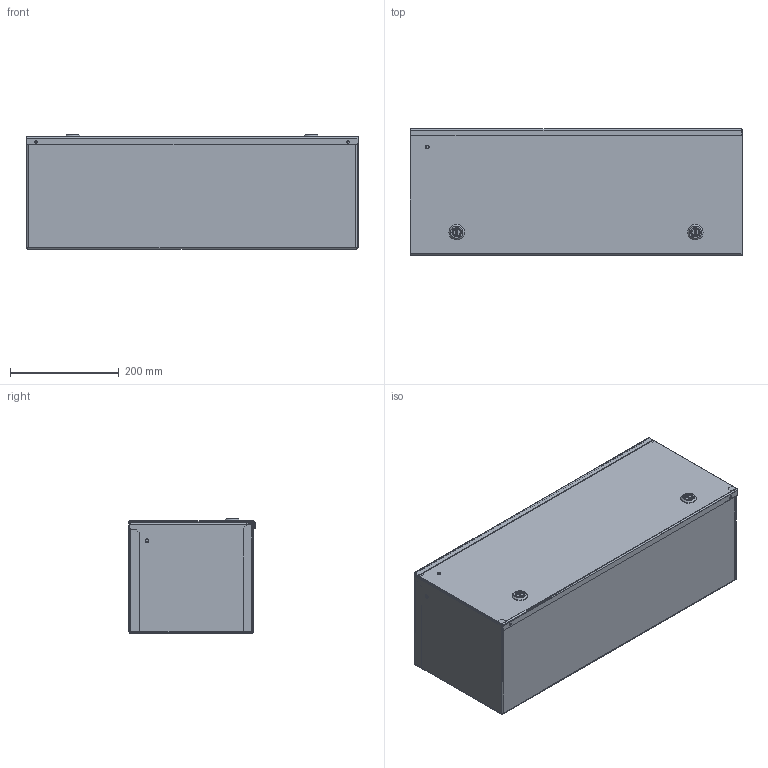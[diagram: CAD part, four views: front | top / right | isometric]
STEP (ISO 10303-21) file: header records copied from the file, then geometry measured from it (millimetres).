
FILE_DESCRIPTION((''),'2;1');
FILE_NAME('MODEL-358_ASM','2019-08-28T09:11:19',('mikek'),('SAGINAW CONTROL & ENGINEERING'),'CREO PARAMETRIC BY PTC INC, 2017260','CREO PARAMETRIC BY PTC INC, 2017260','');
FILE_SCHEMA(('AUTOMOTIVE_DESIGN { 1 0 10303 214 1 1 1 1 }'));
Length unit declared in the file: inch
Products named in the file (12): MODEL-358-BDY; MODEL-358-CVR; 128578; 128579; 100030; 100063; 105060; 123581; SUBPANEL; 102522; SUBPANEL-SUBASSEMBLY_ASM; MODEL-358_ASM
Assembly tree (27 placements, depth 3):
  MODEL-358_ASM
    MODEL-358-BDY
    MODEL-358-CVR
    128578  x2
    128579  x2
    100030  x6
    100063  x2
    105060  x4
    123581
    SUBPANEL-SUBASSEMBLY_ASM
      SUBPANEL
      102522  x6
Bounding box: 609.7 x 231.71 x 210.34 mm (x, y, z)
Volume: 1223418.9 mm3; surface area: 1556526 mm2
Topology: 25 solids, 25 shells, 1863 faces, 4973 edges, 3072 vertices
Faces by surface type: cylinder 765, plane 758, bspline 178, torus 100, cone 42, sphere 20
Entity records: 34984 total; most frequent: CARTESIAN_POINT 9774, DIRECTION 3703, ORIENTED_EDGE 3600, PRESENTATION_STYLE_ASSIGNMENT 1809, STYLED_ITEM 1809, CURVE_STYLE 1800, EDGE_CURVE 1800, AXIS2_PLACEMENT_3D 1356
